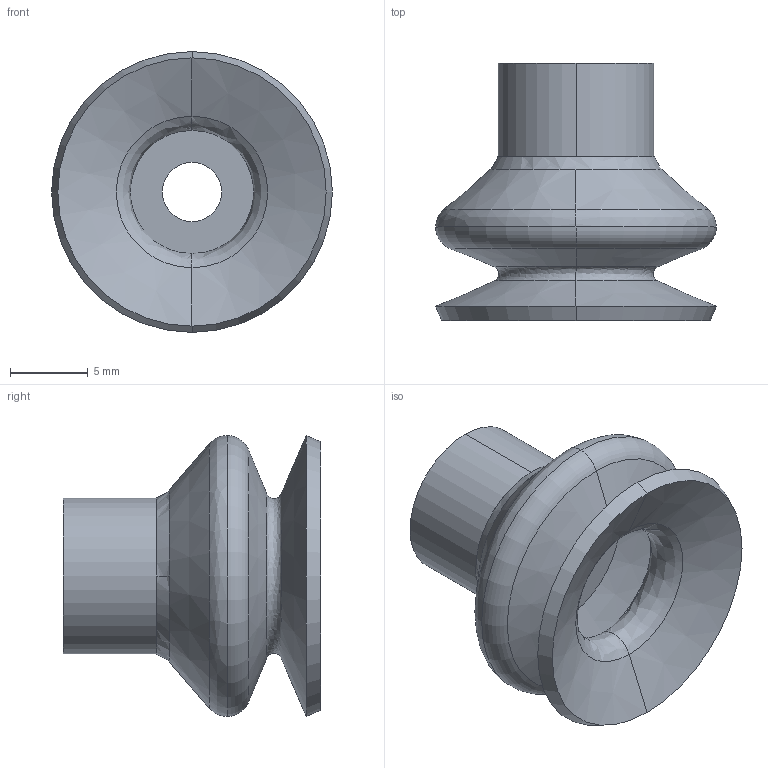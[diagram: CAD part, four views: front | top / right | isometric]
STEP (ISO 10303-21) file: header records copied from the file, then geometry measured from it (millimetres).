
FILE_DESCRIPTION (( 'STEP AP214' ), '1' );
FILE_NAME ('FGA18.STEP', '2023-03-07T06:30:03', ( 'Windows User' ), ( 'P R C' ), 'SwSTEP 2.0', 'SolidWorks 2019', '' );
FILE_SCHEMA (( 'AUTOMOTIVE_DESIGN' ));
Length unit declared in the file: millimetre
Products named in the file (1): FGA18
Bounding box: 18 x 16.5 x 18 mm (x, y, z)
Volume: 1323.6 mm3; surface area: 1765.9 mm2
Topology: 1 solids, 1 shells, 35 faces, 72 edges, 40 vertices
Faces by surface type: cone 14, bspline 12, cylinder 4, plane 3, torus 2
Entity records: 1084 total; most frequent: CARTESIAN_POINT 370, DIRECTION 146, ORIENTED_EDGE 144, EDGE_CURVE 72, AXIS2_PLACEMENT_3D 64, VERTEX_POINT 40, CIRCLE 40, EDGE_LOOP 38
